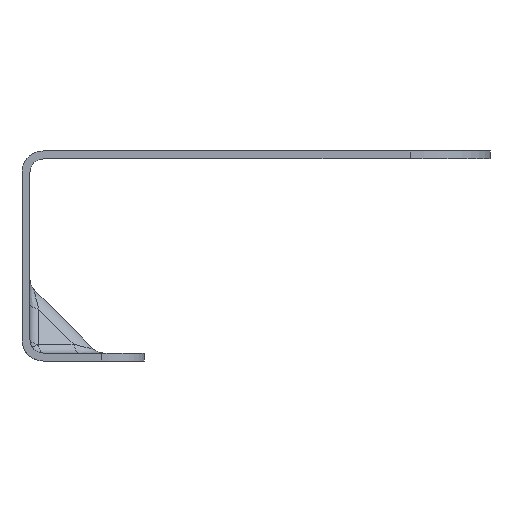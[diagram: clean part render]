
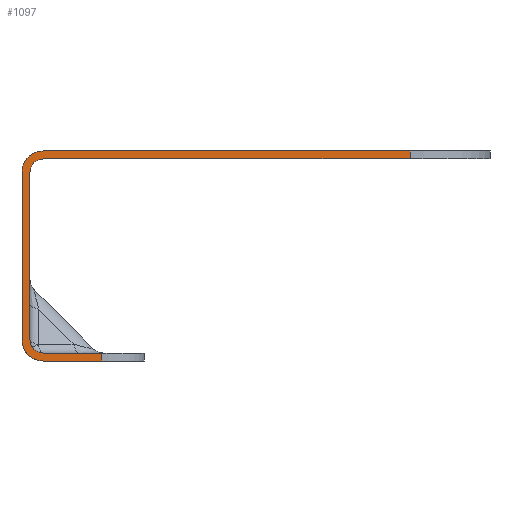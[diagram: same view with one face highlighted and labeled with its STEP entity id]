
A CAD part, front view. The second image highlights one B-rep face of the part: STEP entity #1097.
In plain terms, the highlighted planar face has unit normal (0, -1, 0).
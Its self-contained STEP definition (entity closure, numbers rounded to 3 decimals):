
#950=AXIS2_PLACEMENT_3D('Circle Axis2P3D',#948,#949,$) ;
#979=AXIS2_PLACEMENT_3D('Plane Axis2P3D',#976,#977,#978) ;
#999=AXIS2_PLACEMENT_3D('Circle Axis2P3D',#997,#998,$) ;
#1064=AXIS2_PLACEMENT_3D('Circle Axis2P3D',#1062,#1063,$) ;
#1071=AXIS2_PLACEMENT_3D('Circle Axis2P3D',#1069,#1070,$) ;
#292=CARTESIAN_POINT('Vertex',(1038.999,-738.999,44.)) ;
#295=CARTESIAN_POINT('Line Origine',(1044.499,-738.999,44.)) ;
#299=CARTESIAN_POINT('Vertex',(1049.999,-738.999,44.)) ;
#948=CARTESIAN_POINT('Axis2P3D Location',(1038.999,-738.999,46.5)) ;
#952=CARTESIAN_POINT('Vertex',(1037.231,-738.999,44.732)) ;
#976=CARTESIAN_POINT('Axis2P3D Location',(1122.999,-738.999,20.5)) ;
#981=CARTESIAN_POINT('Line Origine',(1107.999,-738.999,81.25)) ;
#985=CARTESIAN_POINT('Vertex',(1107.999,-738.999,82.)) ;
#987=CARTESIAN_POINT('Vertex',(1107.999,-738.999,80.5)) ;
#990=CARTESIAN_POINT('Line Origine',(1073.499,-738.999,82.)) ;
#994=CARTESIAN_POINT('Vertex',(1038.999,-738.999,82.)) ;
#997=CARTESIAN_POINT('Axis2P3D Location',(1038.999,-738.999,78.)) ;
#1001=CARTESIAN_POINT('Vertex',(1034.999,-738.999,78.)) ;
#1004=CARTESIAN_POINT('Line Origine',(1034.999,-738.999,62.25)) ;
#1008=CARTESIAN_POINT('Vertex',(1034.999,-738.999,46.5)) ;
#1012=CARTESIAN_POINT('Control Point',(1034.999,-738.999,46.5)) ;
#1013=CARTESIAN_POINT('Control Point',(1034.999,-738.999,46.108)) ;
#1014=CARTESIAN_POINT('Control Point',(1035.047,-738.999,45.716)) ;
#1015=CARTESIAN_POINT('Control Point',(1035.143,-738.999,45.332)) ;
#1016=CARTESIAN_POINT('Control Point',(1035.427,-738.999,44.595)) ;
#1017=CARTESIAN_POINT('Control Point',(1035.881,-738.999,43.949)) ;
#1018=CARTESIAN_POINT('Control Point',(1036.146,-738.999,43.655)) ;
#1019=CARTESIAN_POINT('Control Point',(1036.744,-738.999,43.139)) ;
#1020=CARTESIAN_POINT('Control Point',(1037.448,-738.999,42.782)) ;
#1021=CARTESIAN_POINT('Control Point',(1037.82,-738.999,42.647)) ;
#1022=CARTESIAN_POINT('Control Point',(1038.285,-738.999,42.542)) ;
#1023=CARTESIAN_POINT('Control Point',(1038.756,-738.999,42.506)) ;
#1024=CARTESIAN_POINT('Control Point',(1038.837,-738.999,42.502)) ;
#1025=CARTESIAN_POINT('Control Point',(1038.918,-738.999,42.5)) ;
#1026=CARTESIAN_POINT('Control Point',(1038.999,-738.999,42.5)) ;
#1027=CARTESIAN_POINT('Vertex',(1038.999,-738.999,42.5)) ;
#1030=CARTESIAN_POINT('Line Origine',(1044.499,-738.999,42.5)) ;
#1034=CARTESIAN_POINT('Vertex',(1049.999,-738.999,42.5)) ;
#1037=CARTESIAN_POINT('Line Origine',(1049.999,-738.999,43.25)) ;
#1043=CARTESIAN_POINT('Control Point',(1036.499,-738.999,46.5)) ;
#1044=CARTESIAN_POINT('Control Point',(1036.499,-738.999,46.268)) ;
#1045=CARTESIAN_POINT('Control Point',(1036.526,-738.999,46.035)) ;
#1046=CARTESIAN_POINT('Control Point',(1036.58,-738.999,45.807)) ;
#1047=CARTESIAN_POINT('Control Point',(1036.715,-738.999,45.436)) ;
#1048=CARTESIAN_POINT('Control Point',(1036.919,-738.999,45.099)) ;
#1049=CARTESIAN_POINT('Control Point',(1037.014,-738.999,44.968)) ;
#1050=CARTESIAN_POINT('Control Point',(1037.118,-738.999,44.846)) ;
#1051=CARTESIAN_POINT('Control Point',(1037.231,-738.999,44.732)) ;
#1052=CARTESIAN_POINT('Vertex',(1036.499,-738.999,46.5)) ;
#1055=CARTESIAN_POINT('Line Origine',(1036.499,-738.999,62.25)) ;
#1059=CARTESIAN_POINT('Vertex',(1036.499,-738.999,78.)) ;
#1062=CARTESIAN_POINT('Axis2P3D Location',(1038.999,-738.999,78.)) ;
#1066=CARTESIAN_POINT('Vertex',(1037.231,-738.999,79.768)) ;
#1069=CARTESIAN_POINT('Axis2P3D Location',(1038.999,-738.999,78.)) ;
#1073=CARTESIAN_POINT('Vertex',(1038.999,-738.999,80.5)) ;
#1076=CARTESIAN_POINT('Line Origine',(1073.499,-738.999,80.5)) ;
#296=DIRECTION('Vector Direction',(-1.,0.,0.)) ;
#949=DIRECTION('Axis2P3D Direction',(0.,-1.,0.)) ;
#977=DIRECTION('Axis2P3D Direction',(0.,1.,0.)) ;
#978=DIRECTION('Axis2P3D XDirection',(-1.,0.,0.)) ;
#982=DIRECTION('Vector Direction',(0.,0.,1.)) ;
#991=DIRECTION('Vector Direction',(-1.,0.,0.)) ;
#998=DIRECTION('Axis2P3D Direction',(0.,1.,0.)) ;
#1005=DIRECTION('Vector Direction',(0.,0.,1.)) ;
#1031=DIRECTION('Vector Direction',(-1.,0.,0.)) ;
#1038=DIRECTION('Vector Direction',(0.,0.,1.)) ;
#1056=DIRECTION('Vector Direction',(0.,0.,1.)) ;
#1063=DIRECTION('Axis2P3D Direction',(0.,1.,0.)) ;
#1070=DIRECTION('Axis2P3D Direction',(0.,1.,0.)) ;
#1077=DIRECTION('Vector Direction',(-1.,0.,0.)) ;
#297=VECTOR('Line Direction',#296,1.) ;
#983=VECTOR('Line Direction',#982,1.) ;
#992=VECTOR('Line Direction',#991,1.) ;
#1006=VECTOR('Line Direction',#1005,1.) ;
#1032=VECTOR('Line Direction',#1031,1.) ;
#1039=VECTOR('Line Direction',#1038,1.) ;
#1057=VECTOR('Line Direction',#1056,1.) ;
#1078=VECTOR('Line Direction',#1077,1.) ;
#1082=ORIENTED_EDGE('',*,*,#989,.F.) ;
#1083=ORIENTED_EDGE('',*,*,#996,.F.) ;
#1084=ORIENTED_EDGE('',*,*,#1003,.T.) ;
#1085=ORIENTED_EDGE('',*,*,#1010,.T.) ;
#1086=ORIENTED_EDGE('',*,*,#1029,.T.) ;
#1087=ORIENTED_EDGE('',*,*,#1036,.F.) ;
#1088=ORIENTED_EDGE('',*,*,#1041,.F.) ;
#1089=ORIENTED_EDGE('',*,*,#301,.T.) ;
#1090=ORIENTED_EDGE('',*,*,#954,.F.) ;
#1091=ORIENTED_EDGE('',*,*,#1054,.F.) ;
#1092=ORIENTED_EDGE('',*,*,#1061,.T.) ;
#1093=ORIENTED_EDGE('',*,*,#1068,.T.) ;
#1094=ORIENTED_EDGE('',*,*,#1075,.T.) ;
#1095=ORIENTED_EDGE('',*,*,#1080,.F.) ;
#1097=ADVANCED_FACE('interface-2.2.1\\\X2\51E04F554F53\X0\.36',(#1096),#980,.F.) ;
#1011=B_SPLINE_CURVE_WITH_KNOTS('',5,(#1012,#1013,#1014,#1015,#1016,#1017,#1018,#1019,#1020,#1021,#1022,#1023,#1024,#1025,#1026),.UNSPECIFIED.,.F.,.U.,(6,3,3,3,6),(0.,2.778,5.555,8.333,8.906),.UNSPECIFIED.) ;
#1042=B_SPLINE_CURVE_WITH_KNOTS('',5,(#1043,#1044,#1045,#1046,#1047,#1048,#1049,#1050,#1051),.UNSPECIFIED.,.F.,.U.,(6,3,6),(0.,1.646,2.782),.UNSPECIFIED.) ;
#951=CIRCLE('generated circle',#950,2.5) ;
#1000=CIRCLE('generated circle',#999,4.) ;
#1065=CIRCLE('generated circle',#1064,2.5) ;
#1072=CIRCLE('generated circle',#1071,2.5) ;
#301=EDGE_CURVE('',#300,#293,#298,.T.) ;
#954=EDGE_CURVE('',#953,#293,#951,.T.) ;
#989=EDGE_CURVE('',#986,#988,#984,.F.) ;
#996=EDGE_CURVE('',#995,#986,#993,.F.) ;
#1003=EDGE_CURVE('',#995,#1002,#1000,.F.) ;
#1010=EDGE_CURVE('',#1002,#1009,#1007,.F.) ;
#1029=EDGE_CURVE('',#1009,#1028,#1011,.T.) ;
#1036=EDGE_CURVE('',#1035,#1028,#1033,.T.) ;
#1041=EDGE_CURVE('',#300,#1035,#1040,.F.) ;
#1054=EDGE_CURVE('',#1053,#953,#1042,.T.) ;
#1061=EDGE_CURVE('',#1053,#1060,#1058,.T.) ;
#1068=EDGE_CURVE('',#1060,#1067,#1065,.T.) ;
#1075=EDGE_CURVE('',#1067,#1074,#1072,.T.) ;
#1080=EDGE_CURVE('',#988,#1074,#1079,.T.) ;
#1081=EDGE_LOOP('',(#1082,#1083,#1084,#1085,#1086,#1087,#1088,#1089,#1090,#1091,#1092,#1093,#1094,#1095)) ;
#1096=FACE_OUTER_BOUND('',#1081,.T.) ;
#298=LINE('Line',#295,#297) ;
#984=LINE('Line',#981,#983) ;
#993=LINE('Line',#990,#992) ;
#1007=LINE('Line',#1004,#1006) ;
#1033=LINE('Line',#1030,#1032) ;
#1040=LINE('Line',#1037,#1039) ;
#1058=LINE('Line',#1055,#1057) ;
#1079=LINE('Line',#1076,#1078) ;
#980=PLANE('Plane',#979) ;
#293=VERTEX_POINT('',#292) ;
#300=VERTEX_POINT('',#299) ;
#953=VERTEX_POINT('',#952) ;
#986=VERTEX_POINT('',#985) ;
#988=VERTEX_POINT('',#987) ;
#995=VERTEX_POINT('',#994) ;
#1002=VERTEX_POINT('',#1001) ;
#1009=VERTEX_POINT('',#1008) ;
#1028=VERTEX_POINT('',#1027) ;
#1035=VERTEX_POINT('',#1034) ;
#1053=VERTEX_POINT('',#1052) ;
#1060=VERTEX_POINT('',#1059) ;
#1067=VERTEX_POINT('',#1066) ;
#1074=VERTEX_POINT('',#1073) ;
